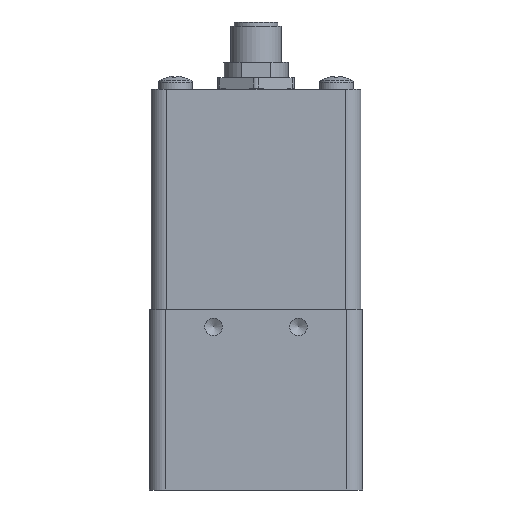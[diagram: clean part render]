
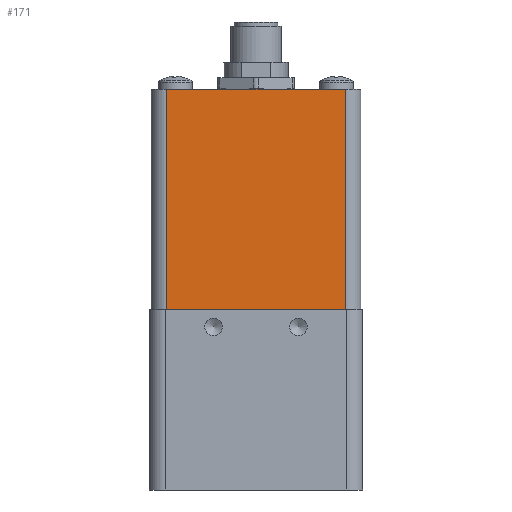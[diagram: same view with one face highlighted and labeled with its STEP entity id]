
A CAD part, front view. The second image highlights one B-rep face of the part: STEP entity #171.
In plain terms, the highlighted planar face has unit normal (0, -1, 0).
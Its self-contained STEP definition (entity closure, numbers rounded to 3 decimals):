
#113=CARTESIAN_POINT('',(46.175,0.425,72.5));
#114=VERTEX_POINT('',#113);
#115=CARTESIAN_POINT('',(46.175,0.425,20.5));
#116=VERTEX_POINT('',#115);
#117=CARTESIAN_POINT('',(46.175,0.425,72.5));
#118=DIRECTION('',(0.0,0.0,-1.0));
#119=VECTOR('',#118,52.);
#120=LINE('',#117,#119);
#121=EDGE_CURVE('',#114,#116,#120,.T.);
#141=CARTESIAN_POINT('',(49.925,0.425,69.4));
#142=DIRECTION('',(0.0,-1.0,0.0));
#143=DIRECTION('',(0.0,0.0,1.0));
#144=AXIS2_PLACEMENT_3D('',#141,#142,#143);
#145=PLANE('',#144);
#146=CARTESIAN_POINT('',(4.175,0.425,20.5));
#147=VERTEX_POINT('',#146);
#148=CARTESIAN_POINT('',(4.175,0.425,72.5));
#149=VERTEX_POINT('',#148);
#150=CARTESIAN_POINT('',(4.175,0.425,20.5));
#151=DIRECTION('',(0.0,0.0,1.0));
#152=VECTOR('',#151,52.);
#153=LINE('',#150,#152);
#154=EDGE_CURVE('',#147,#149,#153,.T.);
#155=ORIENTED_EDGE('',*,*,#154,.F.);
#156=CARTESIAN_POINT('',(46.175,0.425,20.5));
#157=DIRECTION('',(-1.0,0.0,0.0));
#158=VECTOR('',#157,42.);
#159=LINE('',#156,#158);
#160=EDGE_CURVE('',#116,#147,#159,.T.);
#161=ORIENTED_EDGE('',*,*,#160,.F.);
#162=ORIENTED_EDGE('',*,*,#121,.F.);
#163=CARTESIAN_POINT('',(46.175,0.425,72.5));
#164=DIRECTION('',(-1.0,0.0,0.0));
#165=VECTOR('',#164,42.);
#166=LINE('',#163,#165);
#167=EDGE_CURVE('',#114,#149,#166,.T.);
#168=ORIENTED_EDGE('',*,*,#167,.T.);
#169=EDGE_LOOP('',(#155,#161,#162,#168));
#170=FACE_OUTER_BOUND('',#169,.T.);
#171=ADVANCED_FACE('',(#170),#145,.T.);
